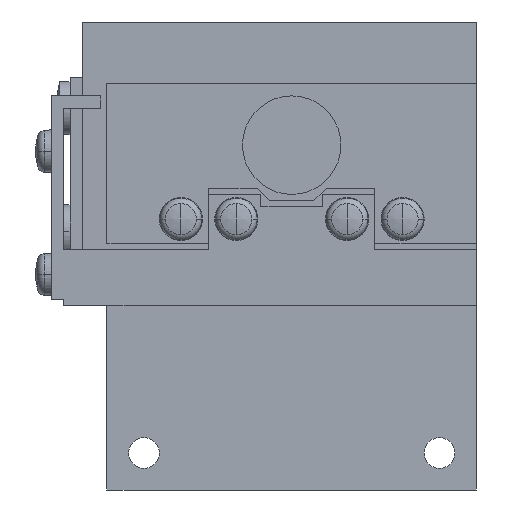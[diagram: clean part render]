
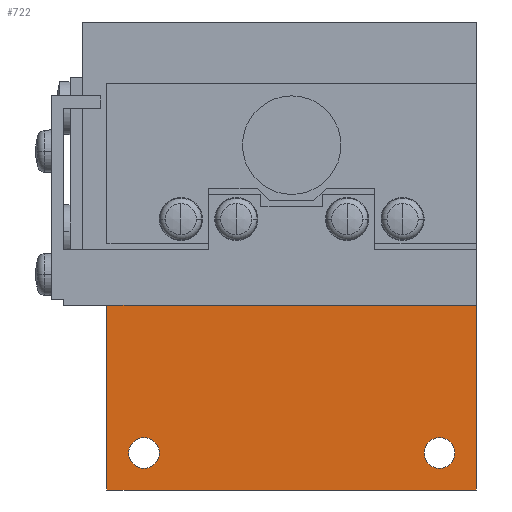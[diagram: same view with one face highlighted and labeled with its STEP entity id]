
A CAD part, front view. The second image highlights one B-rep face of the part: STEP entity #722.
In plain terms, the highlighted planar face has unit normal (0, -1, 0).
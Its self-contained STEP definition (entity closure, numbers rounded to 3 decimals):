
#366 = VERTEX_POINT ( 'NONE', #3595 ) ;
#387 = EDGE_CURVE ( 'NONE', #366, #542, #3583, .T. ) ;
#407 = EDGE_CURVE ( 'NONE', #445, #408, #3766, .T. ) ;
#408 = VERTEX_POINT ( 'NONE', #3761 ) ;
#445 = VERTEX_POINT ( 'NONE', #3655 ) ;
#464 = EDGE_CURVE ( 'NONE', #465, #466, #3778, .T. ) ;
#465 = VERTEX_POINT ( 'NONE', #3773 ) ;
#466 = VERTEX_POINT ( 'NONE', #3772 ) ;
#542 = VERTEX_POINT ( 'NONE', #4053 ) ;
#646 = ORIENTED_EDGE ( 'NONE', *, *, #647, .T. ) ;
#647 = EDGE_CURVE ( 'NONE', #466, #465, #4312, .T. ) ;
#648 = ORIENTED_EDGE ( 'NONE', *, *, #464, .T. ) ;
#649 = EDGE_LOOP ( 'NONE', ( #650, #652 ) ) ;
#650 = ORIENTED_EDGE ( 'NONE', *, *, #651, .T. ) ;
#651 = EDGE_CURVE ( 'NONE', #408, #445, #4307, .T. ) ;
#652 = ORIENTED_EDGE ( 'NONE', *, *, #407, .T. ) ;
#653 = EDGE_LOOP ( 'NONE', ( #654, #655, #656, #657 ) ) ;
#654 = ORIENTED_EDGE ( 'NONE', *, *, #387, .T. ) ;
#655 = ORIENTED_EDGE ( 'NONE', *, *, #721, .F. ) ;
#656 = ORIENTED_EDGE ( 'NONE', *, *, #836, .F. ) ;
#657 = ORIENTED_EDGE ( 'NONE', *, *, #658, .T. ) ;
#658 = EDGE_CURVE ( 'NONE', #834, #366, #4302, .T. ) ;
#721 = EDGE_CURVE ( 'NONE', #837, #542, #4195, .T. ) ;
#722 = ADVANCED_FACE ( 'NONE', ( #4191, #4190, #4189 ), #4188, .F. ) ;
#723 = EDGE_LOOP ( 'NONE', ( #646, #648 ) ) ;
#834 = VERTEX_POINT ( 'NONE', #4561 ) ;
#836 = EDGE_CURVE ( 'NONE', #834, #837, #4560, .T. ) ;
#837 = VERTEX_POINT ( 'NONE', #4556 ) ;
#3580 = DIRECTION ( 'NONE',  ( 0., 0., -1. ) ) ;
#3581 = VECTOR ( 'NONE', #3580, 1000. ) ;
#3582 = CARTESIAN_POINT ( 'NONE',  ( -15., 0., 0. ) ) ;
#3583 = LINE ( 'NONE', #3582, #3581 ) ;
#3595 = CARTESIAN_POINT ( 'NONE',  ( -15., 0., 0. ) ) ;
#3655 = CARTESIAN_POINT ( 'NONE',  ( -12., 0., -13.25 ) ) ;
#3761 = CARTESIAN_POINT ( 'NONE',  ( -12., 0., -10.75 ) ) ;
#3762 = DIRECTION ( 'NONE',  ( 0., 0., 1. ) ) ;
#3763 = DIRECTION ( 'NONE',  ( 0., 1., 0. ) ) ;
#3764 = CARTESIAN_POINT ( 'NONE',  ( -12., 0., -12. ) ) ;
#3765 = AXIS2_PLACEMENT_3D ( 'NONE', #3764, #3763, #3762 ) ;
#3766 = CIRCLE ( 'NONE', #3765, 1.25 ) ;
#3772 = CARTESIAN_POINT ( 'NONE',  ( 12., 0., -10.75 ) ) ;
#3773 = CARTESIAN_POINT ( 'NONE',  ( 12., 0., -13.25 ) ) ;
#3774 = DIRECTION ( 'NONE',  ( 0., 0., 1. ) ) ;
#3775 = DIRECTION ( 'NONE',  ( 0., 1., 0. ) ) ;
#3776 = CARTESIAN_POINT ( 'NONE',  ( 12., 0., -12. ) ) ;
#3777 = AXIS2_PLACEMENT_3D ( 'NONE', #3776, #3775, #3774 ) ;
#3778 = CIRCLE ( 'NONE', #3777, 1.25 ) ;
#4053 = CARTESIAN_POINT ( 'NONE',  ( -15., 0., -15. ) ) ;
#4184 = DIRECTION ( 'NONE',  ( 0., 0., 1. ) ) ;
#4185 = DIRECTION ( 'NONE',  ( 0., 1., 0. ) ) ;
#4186 = CARTESIAN_POINT ( 'NONE',  ( 15., 0., 0. ) ) ;
#4187 = AXIS2_PLACEMENT_3D ( 'NONE', #4186, #4185, #4184 ) ;
#4188 = PLANE ( 'NONE',  #4187 ) ;
#4189 = FACE_OUTER_BOUND ( 'NONE', #653, .T. ) ;
#4190 = FACE_BOUND ( 'NONE', #649, .T. ) ;
#4191 = FACE_BOUND ( 'NONE', #723, .T. ) ;
#4192 = DIRECTION ( 'NONE',  ( -1., 0., 0. ) ) ;
#4193 = VECTOR ( 'NONE', #4192, 1000. ) ;
#4194 = CARTESIAN_POINT ( 'NONE',  ( 15., 0., -15. ) ) ;
#4195 = LINE ( 'NONE', #4194, #4193 ) ;
#4299 = DIRECTION ( 'NONE',  ( -1., 0., 0. ) ) ;
#4300 = VECTOR ( 'NONE', #4299, 1000. ) ;
#4301 = CARTESIAN_POINT ( 'NONE',  ( 15., 0., 0. ) ) ;
#4302 = LINE ( 'NONE', #4301, #4300 ) ;
#4303 = DIRECTION ( 'NONE',  ( 0., 0., 1. ) ) ;
#4304 = DIRECTION ( 'NONE',  ( 0., 1., 0. ) ) ;
#4305 = CARTESIAN_POINT ( 'NONE',  ( -12., 0., -12. ) ) ;
#4306 = AXIS2_PLACEMENT_3D ( 'NONE', #4305, #4304, #4303 ) ;
#4307 = CIRCLE ( 'NONE', #4306, 1.25 ) ;
#4308 = DIRECTION ( 'NONE',  ( 0., 0., 1. ) ) ;
#4309 = DIRECTION ( 'NONE',  ( 0., 1., 0. ) ) ;
#4310 = CARTESIAN_POINT ( 'NONE',  ( 12., 0., -12. ) ) ;
#4311 = AXIS2_PLACEMENT_3D ( 'NONE', #4310, #4309, #4308 ) ;
#4312 = CIRCLE ( 'NONE', #4311, 1.25 ) ;
#4556 = CARTESIAN_POINT ( 'NONE',  ( 15., 0., -15. ) ) ;
#4557 = DIRECTION ( 'NONE',  ( 0., 0., -1. ) ) ;
#4558 = VECTOR ( 'NONE', #4557, 1000. ) ;
#4559 = CARTESIAN_POINT ( 'NONE',  ( 15., 0., 0. ) ) ;
#4560 = LINE ( 'NONE', #4559, #4558 ) ;
#4561 = CARTESIAN_POINT ( 'NONE',  ( 15., 0., 0. ) ) ;
